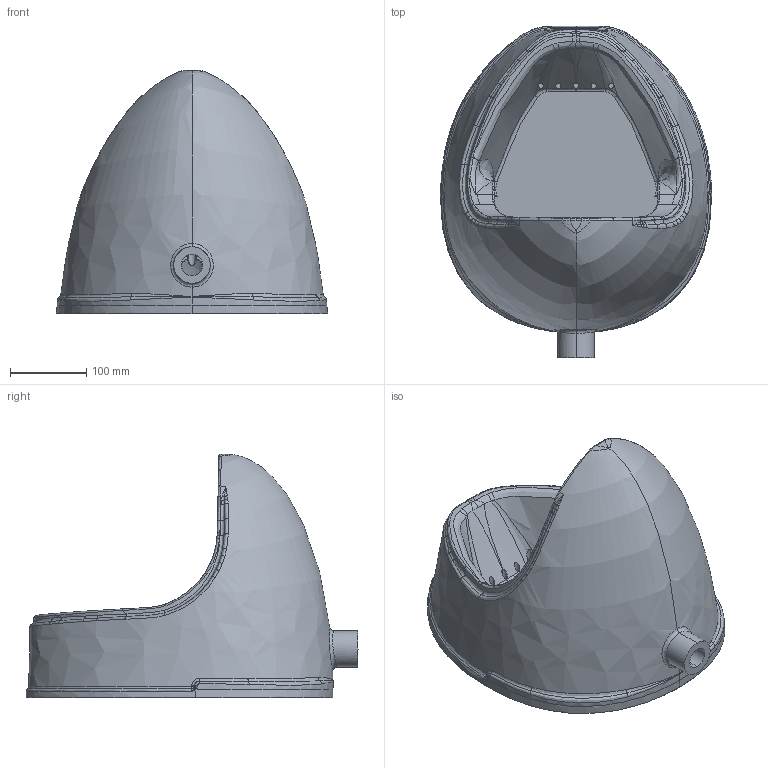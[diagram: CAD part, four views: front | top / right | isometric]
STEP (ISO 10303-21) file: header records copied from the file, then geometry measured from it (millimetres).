
FILE_DESCRIPTION (( 'STEP AP203' ), '1' );
FILE_NAME ('tp600.STEP', '2022-04-25T11:15:17', ( '' ), ( '' ), 'SwSTEP 2.0', 'SolidWorks 2021', '' );
FILE_SCHEMA (( 'CONFIG_CONTROL_DESIGN' ));
Products named in the file (1): tp600
Bounding box: 356.74 x 436.43 x 319.94 mm (x, y, z)
Volume: 4205264.2 mm3; surface area: 794198.9 mm2
Topology: 2 solids, 2 shells, 565 faces, 1404 edges, 832 vertices
Faces by surface type: bspline 398, sphere 67, cylinder 61, plane 37, torus 2
Entity records: 99805 total; most frequent: CARTESIAN_POINT 89639, ORIENTED_EDGE 2776, EDGE_CURVE 1388, DIRECTION 1155, B_SPLINE_CURVE_WITH_KNOTS 871, VERTEX_POINT 830, EDGE_LOOP 570, FACE_OUTER_BOUND 565
